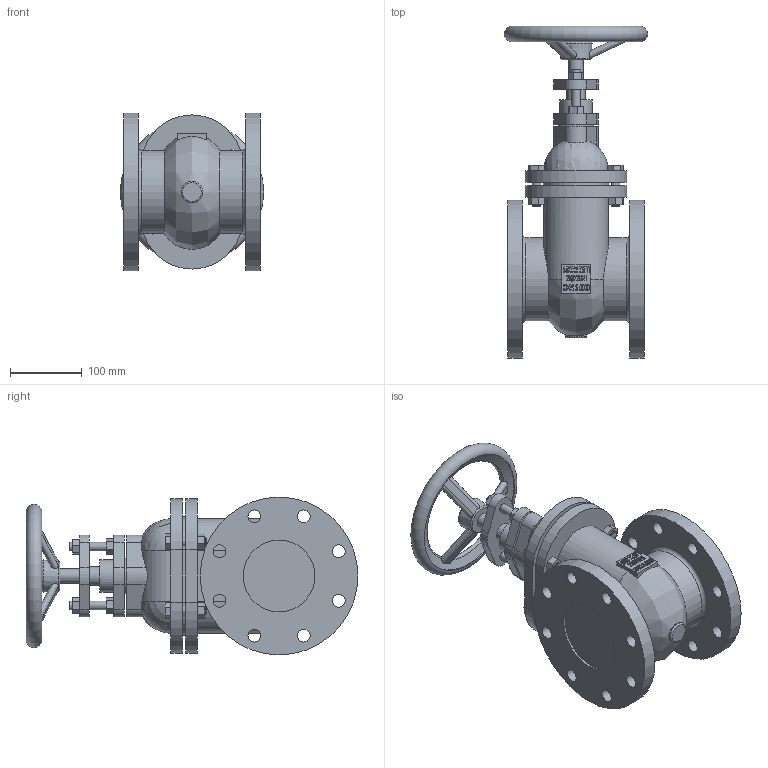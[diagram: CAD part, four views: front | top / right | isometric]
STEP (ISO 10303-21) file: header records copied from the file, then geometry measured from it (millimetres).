
FILE_DESCRIPTION(/* description */ (''),/* implementation_level */ '2;1');
FILE_NAME(/* name */ '292NOD-DN100-PN16 - 11810877.stp',/* time_stamp */ '2024-06-20T22:28:27+02:00',/* author */ ('roger.thijssen'),/* organization */ (''),/* preprocessor_version */ 'ST-DEVELOPER v20',/* originating_system */ 'Autodesk Inventor 2024',/* authorisation */ '');
FILE_SCHEMA (('AUTOMOTIVE_DESIGN { 1 0 10303 214 3 1 1 }'));
Length unit declared in the file: millimetre
Products named in the file (1): 292NOD-DN100-PN16 - 11810877
Bounding box: 200 x 463 x 220 mm (x, y, z)
Volume: 6142740.1 mm3; surface area: 449866.4 mm2
Topology: 1 solids, 1 shells, 419 faces, 1100 edges, 728 vertices
Faces by surface type: plane 245, bspline 80, cylinder 76, cone 9, torus 7, sphere 2
Full cylindrical faces by diameter (mm): 12 x12, 18 x16, 20 x1, 26 x1, 30 x1, 45 x1, 50 x1, 100 x2, 116 x2, 178 x2, 220 x2
Entity records: 14525 total; most frequent: CARTESIAN_POINT 3974, ORIENTED_EDGE 2192, DIRECTION 1801, EDGE_CURVE 1096, VERTEX_POINT 728, LINE 709, VECTOR 709, AXIS2_PLACEMENT_3D 546
